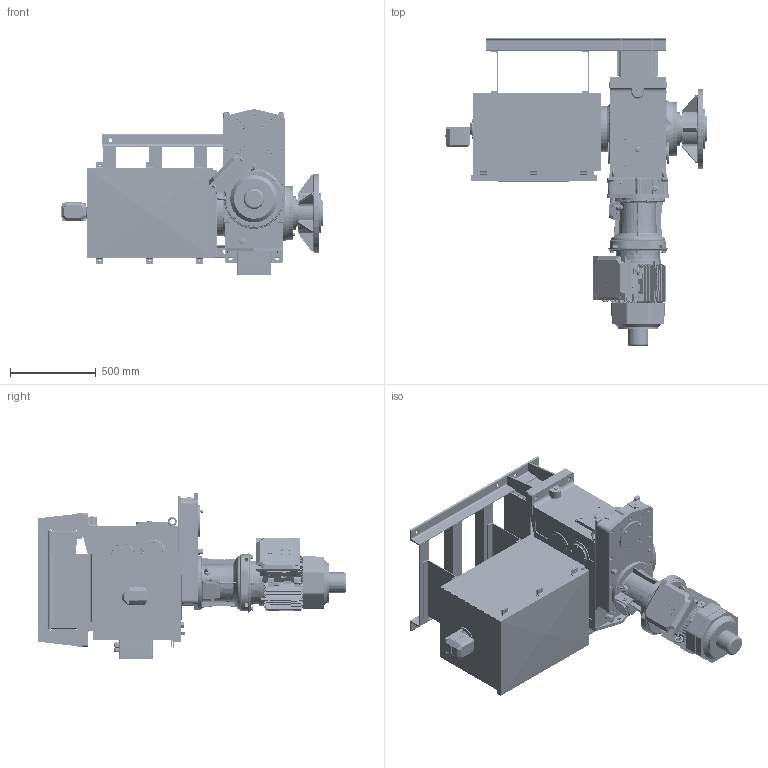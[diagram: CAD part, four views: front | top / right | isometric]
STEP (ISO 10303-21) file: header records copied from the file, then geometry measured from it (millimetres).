
FILE_DESCRIPTION(/* description */ (''),/* implementation_level */ '2;1');
FILE_NAME(/* name */ 'K:\NEMANJA\CABLE REEL\CABLE REEL DA\0700-6\07006005 DA-CRVD\STEP\76971.stp',/* time_stamp */ '2017-03-16T14:00:41+01:00',/* author */ ('zeldjo01'),/* organization */ ('Hillmar Industries Ltd.'),/* preprocessor_version */ 'ST-DEVELOPER v16.1',/* originating_system */ 'Autodesk Inventor 2016',/* authorisation */ '');
FILE_SCHEMA (('AUTOMOTIVE_DESIGN { 1 0 10303 214 3 1 1 }'));
Products named in the file (1): 76971
Bounding box: 1522.35 x 1796.59 x 960.37 mm (x, y, z)
Volume: 125471593 mm3; surface area: 15013089.6 mm2
Topology: 12 solids, 12 shells, 5851 faces, 15465 edges, 9958 vertices
Faces by surface type: plane 2704, cylinder 1671, bspline 603, cone 581, torus 249, sphere 43
Full cylindrical faces by diameter (mm): 7 x4, 8 x2, 8.376 x16, 8.731 x1, 9 x3, 10 x25, 10.106 x62, 10.38 x4, 10.4 x4, 11 x20, 11.053 x6, 12 x22, 12.5 x6, 13 x31, 13.2 x4, 13.5 x16, 14 x12, 14.917 x4, 15 x4, 16 x5, 16.974 x4, 17.2 x6, 17.336 x1, 17.4 x1, 17.475 x1, 18 x7, 18.256 x3, 18.38 x4, 19 x4, 20 x18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
Entity records: 199227 total; most frequent: CARTESIAN_POINT 56918, ORIENTED_EDGE 28554, DIRECTION 26964, EDGE_CURVE 14265, AXIS2_PLACEMENT_3D 9811, VERTEX_POINT 9531, LINE 7342, VECTOR 7342
